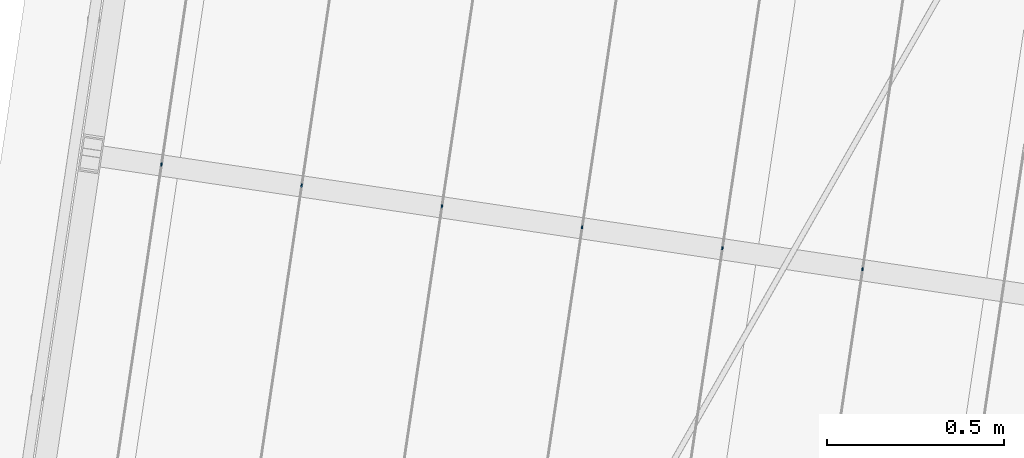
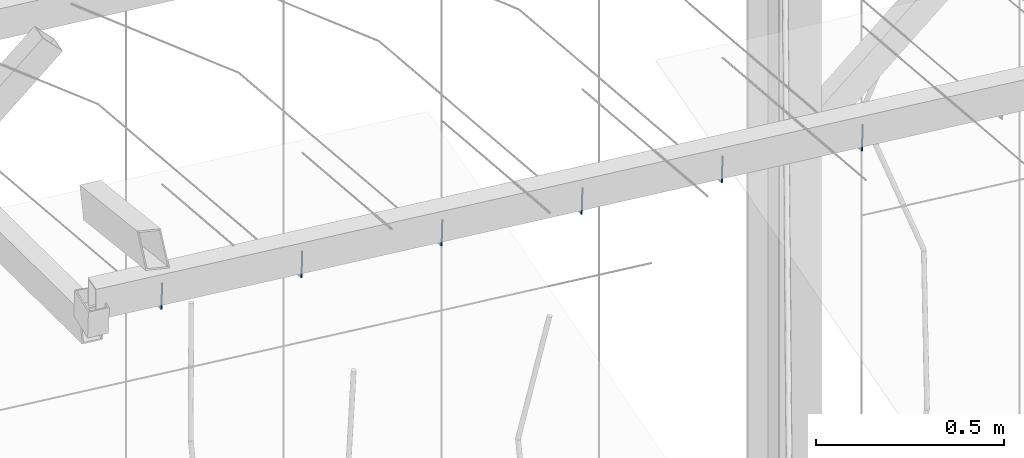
# One storey, part 131 of 142: 6 members, 1 element without a shape of its own.
"""IFC4 building model written with IfcOpenShell, lengths in metres."""

from ifc_helpers import new_model, si_unit, direction, frame, origin_with_axes, place, context, subcontext, project, spatial, circle, extrude, material, material_profile, profile_set, profile_usage, type_object, element, aggregate, save


model = new_model("IFC4")

# Units and contexts
model_context = context("Model", 3, precision=1e-05, world=origin_with_axes(), true_north=direction((0.0, 1.0)))
body_context = subcontext(model_context, "Body", "Model", "MODEL_VIEW")
ifc_project = project(units=[si_unit("LENGTHUNIT", "METRE"), si_unit("AREAUNIT", "SQUARE_METRE"), si_unit("VOLUMEUNIT", "CUBIC_METRE")], contexts=[model_context])

# Site, building, storey
site_placement = place(None, origin_with_axes())
site = spatial("IfcSite", under=ifc_project, at=site_placement, Name="Lares · Rua das Mercês · artigo 4771")
building_placement = place(site_placement, frame((15.0, 9.7, 14.65), z_axis=(0.0, 0.0, 1.0), x_axis=(0.989015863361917, -0.147809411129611, 0.0)))
building = spatial("IfcBuilding", under=site, at=building_placement, Name="Casa Sobreposta")
storey_placement = place(building_placement, origin_with_axes())
storey = spatial("IfcBuildingStorey", under=building, at=storey_placement, Name="00 · Habitação e estacionamento", Elevation=14.65)

# Assembly, members
assembly_placement = place(storey_placement, origin_with_axes())
assembly = element("IfcElementAssembly", 1, at=assembly_placement, inside=storey, Name="Pérgola · prolongamento da estufa 6 m", ObjectType="PERGOLA_GREENHOUSE_EXTENSION", PredefinedType="USERDEFINED")
ifc_material = material(Name="Aço galvanizado / Stahl verzinkt", Category="steel")
ifc_material_profile = material_profile(ifc_material, circle(Radius=0.002))
ifc_profile_set = profile_set([ifc_material_profile], Name="D0.004")
ifc_profile_usage_1 = profile_usage(ifc_profile_set)
member_type = type_object("IfcMemberType", Name="D0.004 / galvanized", PredefinedType="NOTDEFINED", material=ifc_profile_set)
member_1_placement = place(assembly_placement, frame((-5.8, 3.68002089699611, 7.30067689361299), z_axis=(0.0, 0.0651953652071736, -0.997872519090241), x_axis=(1.0, 0.0, 0.0)))
member_1 = element("IfcMember", 2, at=member_1_placement, type_object=member_type, material=ifc_profile_usage_1, Name="Pérgola · fio para trepadeiras", context=body_context, shape_type="SweptSolid", body=[
    extrude(circle(Radius=0.002), origin_with_axes(), (0.0, 0.0, 1.0), 0.0875840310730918),
])
ifc_profile_usage_2 = profile_usage(ifc_profile_set)
member_2_placement = place(assembly_placement, frame((-5.4, 3.68002089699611, 7.30067689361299), z_axis=(0.0, 0.0651953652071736, -0.997872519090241), x_axis=(1.0, 0.0, 0.0)))
member_2 = element("IfcMember", 3, at=member_2_placement, type_object=member_type, material=ifc_profile_usage_2, Name="Pérgola · fio para trepadeiras", context=body_context, shape_type="SweptSolid", body=[
    extrude(circle(Radius=0.002), origin_with_axes(), (0.0, 0.0, 1.0), 0.0875840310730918),
])
ifc_profile_usage_3 = profile_usage(ifc_profile_set)
member_3_placement = place(assembly_placement, frame((-5.0, 3.68002089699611, 7.30067689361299), z_axis=(0.0, 0.0651953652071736, -0.997872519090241), x_axis=(1.0, 0.0, 0.0)))
member_3 = element("IfcMember", 4, at=member_3_placement, type_object=member_type, material=ifc_profile_usage_3, Name="Pérgola · fio para trepadeiras", context=body_context, shape_type="SweptSolid", body=[
    extrude(circle(Radius=0.002), origin_with_axes(), (0.0, 0.0, 1.0), 0.0875840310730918),
])
ifc_profile_usage_4 = profile_usage(ifc_profile_set)
member_4_placement = place(assembly_placement, frame((-4.6, 3.68002089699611, 7.30067689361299), z_axis=(0.0, 0.0651953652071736, -0.997872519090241), x_axis=(1.0, 0.0, 0.0)))
member_4 = element("IfcMember", 5, at=member_4_placement, type_object=member_type, material=ifc_profile_usage_4, Name="Pérgola · fio para trepadeiras", context=body_context, shape_type="SweptSolid", body=[
    extrude(circle(Radius=0.002), origin_with_axes(), (0.0, 0.0, 1.0), 0.0875840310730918),
])
ifc_profile_usage_5 = profile_usage(ifc_profile_set)
member_5_placement = place(assembly_placement, frame((-4.2, 3.68002089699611, 7.30067689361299), z_axis=(0.0, 0.0651953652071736, -0.997872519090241), x_axis=(1.0, 0.0, 0.0)))
member_5 = element("IfcMember", 6, at=member_5_placement, type_object=member_type, material=ifc_profile_usage_5, Name="Pérgola · fio para trepadeiras", context=body_context, shape_type="SweptSolid", body=[
    extrude(circle(Radius=0.002), origin_with_axes(), (0.0, 0.0, 1.0), 0.0875840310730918),
])
ifc_profile_usage_6 = profile_usage(ifc_profile_set)
member_6_placement = place(assembly_placement, frame((-3.8, 3.68002089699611, 7.30067689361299), z_axis=(0.0, 0.0651953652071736, -0.997872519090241), x_axis=(1.0, 0.0, 0.0)))
member_6 = element("IfcMember", 7, at=member_6_placement, type_object=member_type, material=ifc_profile_usage_6, Name="Pérgola · fio para trepadeiras", context=body_context, shape_type="SweptSolid", body=[
    extrude(circle(Radius=0.002), origin_with_axes(), (0.0, 0.0, 1.0), 0.0875840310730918),
])
aggregate(assembly, [member_1, member_2, member_3, member_4, member_5, member_6])

save(model, "model.ifc")
